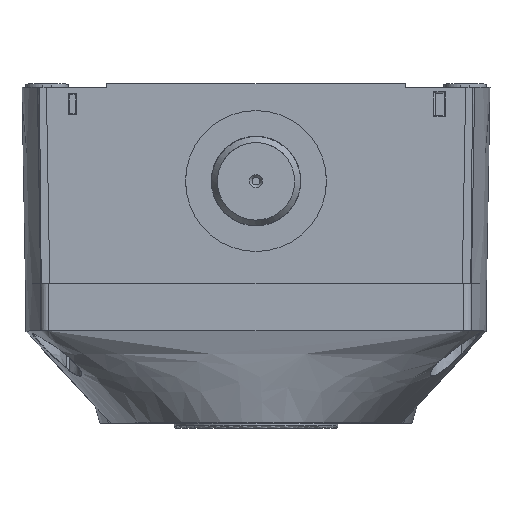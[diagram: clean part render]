
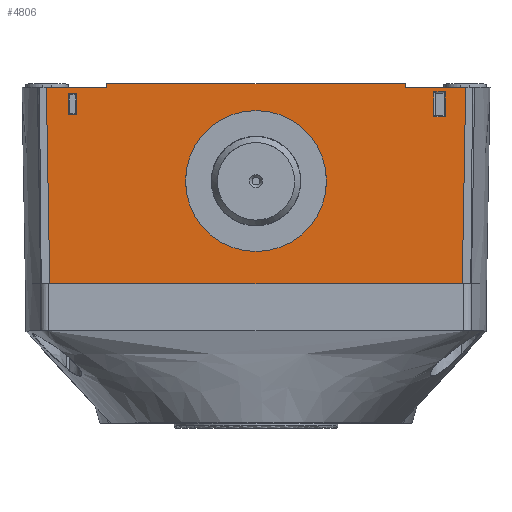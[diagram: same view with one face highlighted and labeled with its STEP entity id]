
A CAD part, top view. The second image highlights one B-rep face of the part: STEP entity #4806.
In plain terms, the highlighted planar face has unit normal (0, 0, 1).
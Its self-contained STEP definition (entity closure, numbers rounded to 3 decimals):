
#4145 = VERTEX_POINT ( 'NONE', #7578 ) ;
#4212 = VERTEX_POINT ( 'NONE', #7781 ) ;
#4225 = ORIENTED_EDGE ( 'NONE', *, *, #4498, .T. ) ;
#4325 = EDGE_CURVE ( 'NONE', #17133, #17133, #8094, .T. ) ;
#4449 = VERTEX_POINT ( 'NONE', #8367 ) ;
#4463 = VERTEX_POINT ( 'NONE', #8325 ) ;
#4465 = VERTEX_POINT ( 'NONE', #8361 ) ;
#4477 = EDGE_CURVE ( 'NONE', #4543, #4483, #8365, .T. ) ;
#4482 = EDGE_CURVE ( 'NONE', #4463, #4449, #8338, .T. ) ;
#4483 = VERTEX_POINT ( 'NONE', #8372 ) ;
#4495 = EDGE_CURVE ( 'NONE', #4483, #4463, #8348, .T. ) ;
#4498 = EDGE_CURVE ( 'NONE', #4449, #4543, #8411, .T. ) ;
#4538 = EDGE_CURVE ( 'NONE', #4212, #4465, #8531, .T. ) ;
#4543 = VERTEX_POINT ( 'NONE', #8468 ) ;
#4627 = EDGE_CURVE ( 'NONE', #4145, #5364, #8820, .T. ) ;
#4631 = ORIENTED_EDGE ( 'NONE', *, *, #4495, .T. ) ;
#4653 = EDGE_LOOP ( 'NONE', ( #4804, #4658, #4787, #4926 ) ) ;
#4658 = ORIENTED_EDGE ( 'NONE', *, *, #4538, .T. ) ;
#4663 = EDGE_CURVE ( 'NONE', #4908, #4909, #9027, .T. ) ;
#4669 = EDGE_CURVE ( 'NONE', #4465, #4908, #9033, .T. ) ;
#4674 = ORIENTED_EDGE ( 'NONE', *, *, #4776, .T. ) ;
#4677 = EDGE_CURVE ( 'NONE', #4145, #4678, #9010, .T. ) ;
#4678 = VERTEX_POINT ( 'NONE', #9002 ) ;
#4681 = VERTEX_POINT ( 'NONE', #9079 ) ;
#4690 = EDGE_CURVE ( 'NONE', #4703, #4737, #9040, .T. ) ;
#4692 = ORIENTED_EDGE ( 'NONE', *, *, #5359, .F. ) ;
#4693 = ORIENTED_EDGE ( 'NONE', *, *, #4325, .F. ) ;
#4694 = EDGE_CURVE ( 'NONE', #4703, #5273, #8975, .T. ) ;
#4695 = ORIENTED_EDGE ( 'NONE', *, *, #5280, .T. ) ;
#4703 = VERTEX_POINT ( 'NONE', #9153 ) ;
#4736 = EDGE_CURVE ( 'NONE', #4681, #4678, #9188, .T. ) ;
#4737 = VERTEX_POINT ( 'NONE', #9183 ) ;
#4738 = ORIENTED_EDGE ( 'NONE', *, *, #4736, .T. ) ;
#4739 = EDGE_LOOP ( 'NONE', ( #4693 ) ) ;
#4740 = EDGE_LOOP ( 'NONE', ( #4674, #4738, #4772, #4743, #4692, #4695, #4742, #4744 ) ) ;
#4742 = ORIENTED_EDGE ( 'NONE', *, *, #4694, .F. ) ;
#4743 = ORIENTED_EDGE ( 'NONE', *, *, #4627, .T. ) ;
#4744 = ORIENTED_EDGE ( 'NONE', *, *, #4690, .T. ) ;
#4772 = ORIENTED_EDGE ( 'NONE', *, *, #4677, .F. ) ;
#4773 = ORIENTED_EDGE ( 'NONE', *, *, #4477, .T. ) ;
#4776 = EDGE_CURVE ( 'NONE', #4737, #4681, #9259, .T. ) ;
#4787 = ORIENTED_EDGE ( 'NONE', *, *, #4669, .T. ) ;
#4804 = ORIENTED_EDGE ( 'NONE', *, *, #4896, .T. ) ;
#4806 = ADVANCED_FACE ( 'NONE', ( #9484, #9467, #9485, #9430 ), #9462, .T. ) ;
#4896 = EDGE_CURVE ( 'NONE', #4909, #4212, #9525, .T. ) ;
#4904 = ORIENTED_EDGE ( 'NONE', *, *, #4482, .T. ) ;
#4908 = VERTEX_POINT ( 'NONE', #9826 ) ;
#4909 = VERTEX_POINT ( 'NONE', #9781 ) ;
#4924 = EDGE_LOOP ( 'NONE', ( #4631, #4904, #4225, #4773 ) ) ;
#4926 = ORIENTED_EDGE ( 'NONE', *, *, #4663, .T. ) ;
#5273 = VERTEX_POINT ( 'NONE', #16101 ) ;
#5280 = EDGE_CURVE ( 'NONE', #5284, #5273, #15949, .T. ) ;
#5284 = VERTEX_POINT ( 'NONE', #15962 ) ;
#5359 = EDGE_CURVE ( 'NONE', #5284, #5364, #13256, .T. ) ;
#5364 = VERTEX_POINT ( 'NONE', #13077 ) ;
#7578 = CARTESIAN_POINT ( 'NONE',  ( 35., 46., 43. ) ) ;
#7781 = CARTESIAN_POINT ( 'NONE',  ( 41.651, 44.899, 43. ) ) ;
#8094 = CIRCLE ( 'NONE', #8122, 16.5 ) ;
#8110 = DIRECTION ( 'NONE',  ( 1., 0., 0. ) ) ;
#8111 = DIRECTION ( 'NONE',  ( 0., 0., 1. ) ) ;
#8122 = AXIS2_PLACEMENT_3D ( 'NONE', #8186, #8111, #8110 ) ;
#8186 = CARTESIAN_POINT ( 'NONE',  ( 0., 24., 43. ) ) ;
#8325 = CARTESIAN_POINT ( 'NONE',  ( -44., 39.5, 43. ) ) ;
#8335 = DIRECTION ( 'NONE',  ( 0., 1., 0. ) ) ;
#8336 = VECTOR ( 'NONE', #8335, 1000. ) ;
#8337 = CARTESIAN_POINT ( 'NONE',  ( -44., 39.5, 43. ) ) ;
#8338 = LINE ( 'NONE', #8337, #8336 ) ;
#8345 = DIRECTION ( 'NONE',  ( -1., 0., 0. ) ) ;
#8346 = VECTOR ( 'NONE', #8345, 1000. ) ;
#8347 = CARTESIAN_POINT ( 'NONE',  ( -44., 39.5, 43. ) ) ;
#8348 = LINE ( 'NONE', #8347, #8346 ) ;
#8361 = CARTESIAN_POINT ( 'NONE',  ( 44.349, 44.899, 43. ) ) ;
#8365 = LINE ( 'NONE', #8371, #8370 ) ;
#8367 = CARTESIAN_POINT ( 'NONE',  ( -44., 44.5, 43. ) ) ;
#8369 = DIRECTION ( 'NONE',  ( 0., -1., 0. ) ) ;
#8370 = VECTOR ( 'NONE', #8369, 1000. ) ;
#8371 = CARTESIAN_POINT ( 'NONE',  ( -42., 44.5, 43. ) ) ;
#8372 = CARTESIAN_POINT ( 'NONE',  ( -42., 39.5, 43. ) ) ;
#8408 = DIRECTION ( 'NONE',  ( 1., 0., 0. ) ) ;
#8409 = VECTOR ( 'NONE', #8408, 1000. ) ;
#8410 = CARTESIAN_POINT ( 'NONE',  ( -44., 44.5, 43. ) ) ;
#8411 = LINE ( 'NONE', #8410, #8409 ) ;
#8460 = DIRECTION ( 'NONE',  ( 1., 0., 0. ) ) ;
#8461 = VECTOR ( 'NONE', #8460, 1000. ) ;
#8467 = CARTESIAN_POINT ( 'NONE',  ( 44.05, 44.899, 43. ) ) ;
#8468 = CARTESIAN_POINT ( 'NONE',  ( -42., 44.5, 43. ) ) ;
#8531 = LINE ( 'NONE', #8467, #8461 ) ;
#8815 = DIRECTION ( 'NONE',  ( -0.004, 1., 0. ) ) ;
#8816 = VECTOR ( 'NONE', #8815, 1000. ) ;
#8819 = CARTESIAN_POINT ( 'NONE',  ( 35., 46., 43. ) ) ;
#8820 = LINE ( 'NONE', #8819, #8816 ) ;
#8967 = DIRECTION ( 'NONE',  ( 1., 0., 0. ) ) ;
#8968 = VECTOR ( 'NONE', #8967, 1000. ) ;
#8974 = CARTESIAN_POINT ( 'NONE',  ( -6., 46., 43. ) ) ;
#8975 = LINE ( 'NONE', #8974, #8968 ) ;
#8977 = DIRECTION ( 'NONE',  ( 0.017, -1., 0. ) ) ;
#8997 = VECTOR ( 'NONE', #9005, 1000. ) ;
#9002 = CARTESIAN_POINT ( 'NONE',  ( 49.103, 46., 43. ) ) ;
#9005 = DIRECTION ( 'NONE',  ( 1., 0., 0. ) ) ;
#9006 = CARTESIAN_POINT ( 'NONE',  ( -6., 46., 43. ) ) ;
#9007 = DIRECTION ( 'NONE',  ( 0., -1., 0. ) ) ;
#9008 = VECTOR ( 'NONE', #9007, 1000. ) ;
#9009 = CARTESIAN_POINT ( 'NONE',  ( 44.349, 39.4, 43. ) ) ;
#9010 = LINE ( 'NONE', #9006, #8997 ) ;
#9024 = DIRECTION ( 'NONE',  ( -1., 0., 0. ) ) ;
#9025 = VECTOR ( 'NONE', #9024, 1000. ) ;
#9026 = CARTESIAN_POINT ( 'NONE',  ( 41.95, 39.101, 43. ) ) ;
#9027 = LINE ( 'NONE', #9026, #9025 ) ;
#9033 = LINE ( 'NONE', #9009, #9008 ) ;
#9038 = VECTOR ( 'NONE', #8977, 1000. ) ;
#9039 = CARTESIAN_POINT ( 'NONE',  ( -49.12, 46.99, 43. ) ) ;
#9040 = LINE ( 'NONE', #9039, #9038 ) ;
#9079 = CARTESIAN_POINT ( 'NONE',  ( 48.3, 0., 43. ) ) ;
#9153 = CARTESIAN_POINT ( 'NONE',  ( -49.103, 46., 43. ) ) ;
#9170 = VECTOR ( 'NONE', #9173, 1000. ) ;
#9173 = DIRECTION ( 'NONE',  ( 1., 0., 0. ) ) ;
#9183 = CARTESIAN_POINT ( 'NONE',  ( -48.3, 0., 43. ) ) ;
#9184 = DIRECTION ( 'NONE',  ( 0.017, 1., 0. ) ) ;
#9185 = VECTOR ( 'NONE', #9184, 1000. ) ;
#9186 = CARTESIAN_POINT ( 'NONE',  ( 49.084, 44.896, 43. ) ) ;
#9188 = LINE ( 'NONE', #9186, #9185 ) ;
#9244 = CARTESIAN_POINT ( 'NONE',  ( -6., 0., 43. ) ) ;
#9259 = LINE ( 'NONE', #9244, #9170 ) ;
#9311 = DIRECTION ( 'NONE',  ( 1., 0., 0. ) ) ;
#9312 = DIRECTION ( 'NONE',  ( 0., 0., 1. ) ) ;
#9430 = FACE_OUTER_BOUND ( 'NONE', #4740, .T. ) ;
#9462 = PLANE ( 'NONE',  #9466 ) ;
#9466 = AXIS2_PLACEMENT_3D ( 'NONE', #9483, #9312, #9311 ) ;
#9467 = FACE_BOUND ( 'NONE', #4924, .T. ) ;
#9483 = CARTESIAN_POINT ( 'NONE',  ( -60., 46.8, 43. ) ) ;
#9484 = FACE_BOUND ( 'NONE', #4653, .T. ) ;
#9485 = FACE_BOUND ( 'NONE', #4739, .T. ) ;
#9525 = LINE ( 'NONE', #9548, #9540 ) ;
#9540 = VECTOR ( 'NONE', #9549, 1000. ) ;
#9548 = CARTESIAN_POINT ( 'NONE',  ( 41.651, 44.6, 43. ) ) ;
#9549 = DIRECTION ( 'NONE',  ( 0., 1., 0. ) ) ;
#9781 = CARTESIAN_POINT ( 'NONE',  ( 41.651, 39.101, 43. ) ) ;
#9826 = CARTESIAN_POINT ( 'NONE',  ( 44.349, 39.101, 43. ) ) ;
#13077 = CARTESIAN_POINT ( 'NONE',  ( 34.997, 46.8, 43. ) ) ;
#13253 = DIRECTION ( 'NONE',  ( 1., 0., 0. ) ) ;
#13254 = VECTOR ( 'NONE', #13253, 1000. ) ;
#13255 = CARTESIAN_POINT ( 'NONE',  ( -35., 46.8, 43. ) ) ;
#13256 = LINE ( 'NONE', #13255, #13254 ) ;
#15946 = DIRECTION ( 'NONE',  ( -0.004, -1., 0. ) ) ;
#15947 = VECTOR ( 'NONE', #15946, 1000. ) ;
#15948 = CARTESIAN_POINT ( 'NONE',  ( -35., 46., 43. ) ) ;
#15949 = LINE ( 'NONE', #15948, #15947 ) ;
#15962 = CARTESIAN_POINT ( 'NONE',  ( -34.997, 46.8, 43. ) ) ;
#16101 = CARTESIAN_POINT ( 'NONE',  ( -35., 46., 43. ) ) ;
#17130 = CARTESIAN_POINT ( 'NONE',  ( 16.5, 24., 43. ) ) ;
#17133 = VERTEX_POINT ( 'NONE', #17130 ) ;
